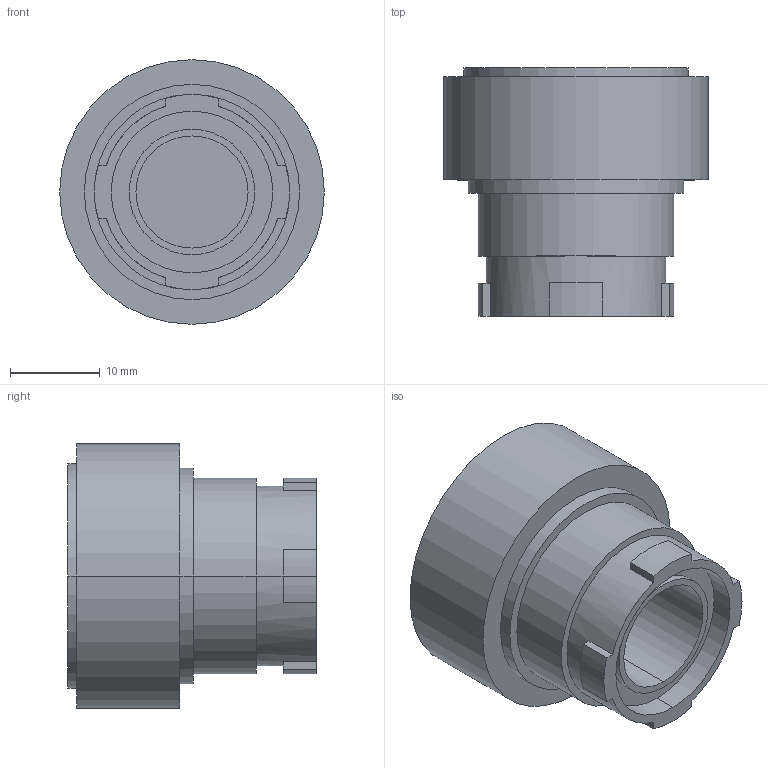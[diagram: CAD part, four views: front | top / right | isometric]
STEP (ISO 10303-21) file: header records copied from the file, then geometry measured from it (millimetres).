
FILE_DESCRIPTION (( 'STEP AP214' ), '1' );
FILE_NAME ('3D 斁麧錪 MTB2-BA3.STEP', '2017-03-03T06:54:39', ( 'adm' ), ( 'MICROSOFT' ), 'SwSTEP 2.0', 'SolidWorks 2011', '' );
FILE_SCHEMA (( 'AUTOMOTIVE_DESIGN' ));
Length unit declared in the file: millimetre
Products named in the file (1): 3D 斁麧錪 MTB2-BA3
Bounding box: 29.5 x 27.7 x 29.5 mm (x, y, z)
Volume: 11871.2 mm3; surface area: 4250.3 mm2
Topology: 1 solids, 1 shells, 42 faces, 99 edges, 66 vertices
Faces by surface type: cylinder 21, plane 21
Entity records: 1344 total; most frequent: DIRECTION 235, CARTESIAN_POINT 208, ORIENTED_EDGE 198, EDGE_CURVE 99, AXIS2_PLACEMENT_3D 93, VERTEX_POINT 66, CIRCLE 50, LINE 49
